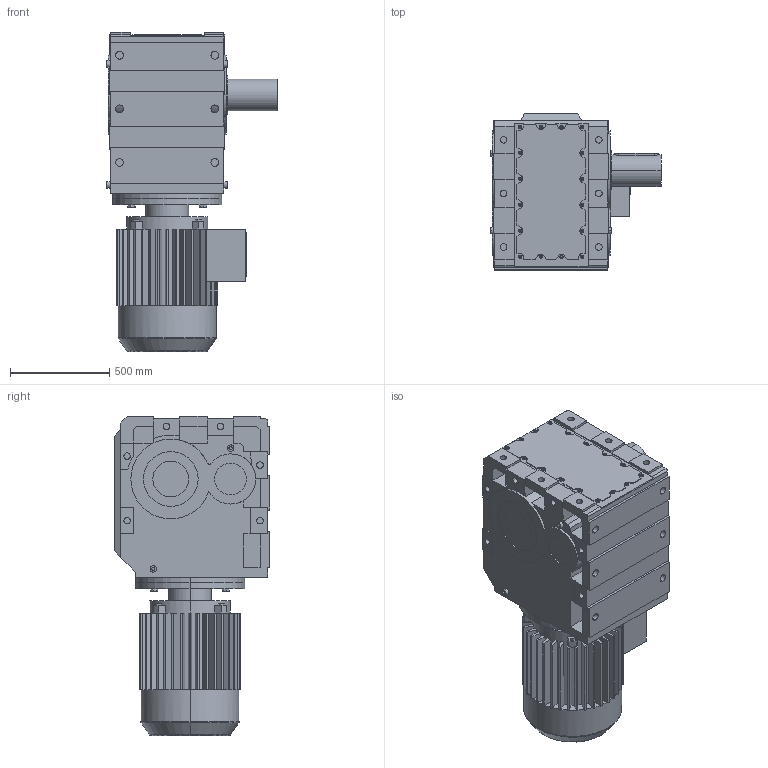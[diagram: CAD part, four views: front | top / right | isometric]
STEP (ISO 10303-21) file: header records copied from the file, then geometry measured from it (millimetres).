
FILE_DESCRIPTION(('Open CASCADE Model'),'2;1');
FILE_NAME('Open CASCADE Shape Model','2021-05-13T14:16:49',('Author'),( 'Open CASCADE'),'Open CASCADE STEP processor 6.3','Open CASCADE 6.3' ,'Unknown');
FILE_SCHEMA(('AUTOMOTIVE_DESIGN_CC2 { 1 2 10303 214 -1 1 5 4 }'));
Length unit declared in the file: millimetre
Products named in the file (4): 1_K167DV250M-A; K167‵187_167.step; 萇儂_550-DV250M-771-956-510-397.step; す瑩妗陑粣K_167.step
Assembly tree (3 placements, depth 2):
  1_K167DV250M-A
    K167‵187_167.step
    萇儂_550-DV250M-771-956-510-397.step
    す瑩妗陑粣K_167.step
Bounding box: 860 x 786 x 1608 mm (x, y, z)
Volume: 479431237.5 mm3; surface area: 7806954.2 mm2
Topology: 3 solids, 3 shells, 917 faces, 2376 edges, 1546 vertices
Faces by surface type: plane 617, cylinder 288, cone 8, torus 4
Entity records: 59575 total; most frequent: CARTESIAN_POINT 14061, DIRECTION 7944, ORIENTED_EDGE 4748, PCURVE 4748, DEFINITIONAL_REPRESENTATION 4748, LINE 4231, VECTOR 4231, EDGE_CURVE 2374
